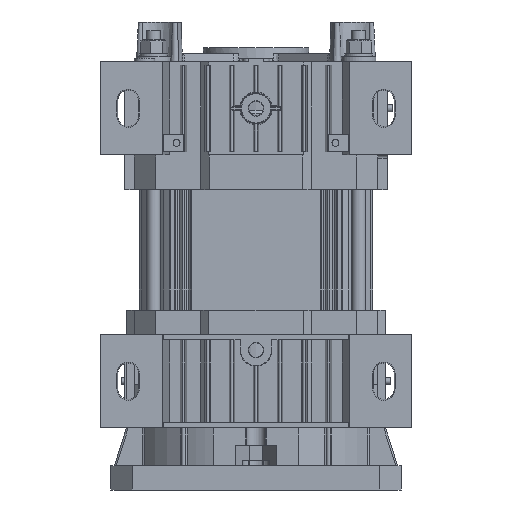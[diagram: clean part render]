
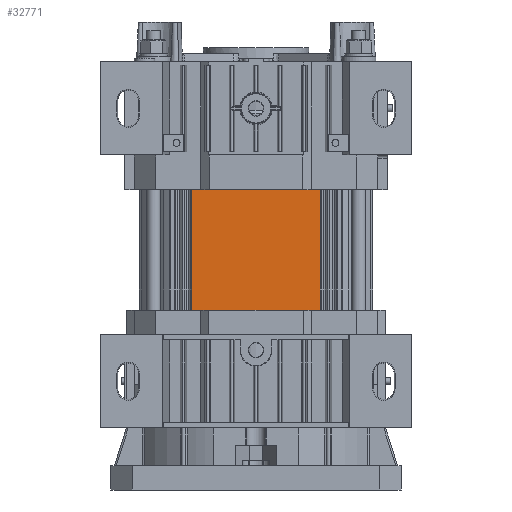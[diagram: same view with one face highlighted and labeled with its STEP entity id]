
A CAD part, front view. The second image highlights one B-rep face of the part: STEP entity #32771.
In plain terms, the highlighted planar face has unit normal (0, -1, 0).
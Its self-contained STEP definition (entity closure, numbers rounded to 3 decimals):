
#3593=LINE('',#57888,#6555);
#3829=LINE('',#58631,#6791);
#3830=LINE('',#58634,#6792);
#3831=LINE('',#58635,#6793);
#6555=VECTOR('',#44771,10.);
#6791=VECTOR('',#45525,10.);
#6792=VECTOR('',#45530,10.);
#6793=VECTOR('',#45531,10.);
#7784=PLANE('',#36105);
#9716=FACE_OUTER_BOUND('',#11657,.T.);
#11657=EDGE_LOOP('',(#30253,#30254,#30255,#30256));
#15997=VERTEX_POINT('',#57881);
#16000=VERTEX_POINT('',#57886);
#16247=VERTEX_POINT('',#58628);
#16248=VERTEX_POINT('',#58630);
#20638=EDGE_CURVE('',#16000,#15997,#3593,.T.);
#21009=EDGE_CURVE('',#16248,#16247,#3829,.T.);
#21011=EDGE_CURVE('',#16247,#15997,#3830,.T.);
#21012=EDGE_CURVE('',#16000,#16248,#3831,.T.);
#30253=ORIENTED_EDGE('',*,*,#21011,.T.);
#30254=ORIENTED_EDGE('',*,*,#20638,.F.);
#30255=ORIENTED_EDGE('',*,*,#21012,.T.);
#30256=ORIENTED_EDGE('',*,*,#21009,.T.);
#32771=ADVANCED_FACE('',(#9716),#7784,.T.);
#36105=AXIS2_PLACEMENT_3D('',#58633,#45528,#45529);
#44771=DIRECTION('',(0.,0.,1.));
#45525=DIRECTION('',(0.,0.,1.));
#45528=DIRECTION('center_axis',(0.,-1.,0.));
#45529=DIRECTION('ref_axis',(0.,0.,-1.));
#45530=DIRECTION('',(-1.,0.,0.));
#45531=DIRECTION('',(1.,0.,0.));
#57881=CARTESIAN_POINT('',(6506.45,-1976.3,80.));
#57886=CARTESIAN_POINT('',(6506.45,-1976.3,0.));
#57888=CARTESIAN_POINT('',(6506.45,-1976.3,0.));
#58628=CARTESIAN_POINT('',(6580.572,-1976.3,80.));
#58630=CARTESIAN_POINT('',(6580.572,-1976.3,0.));
#58631=CARTESIAN_POINT('',(6580.572,-1976.3,0.));
#58633=CARTESIAN_POINT('Origin',(6580.572,-1976.3,0.));
#58634=CARTESIAN_POINT('',(6506.45,-1976.3,80.));
#58635=CARTESIAN_POINT('',(6506.45,-1976.3,0.));
